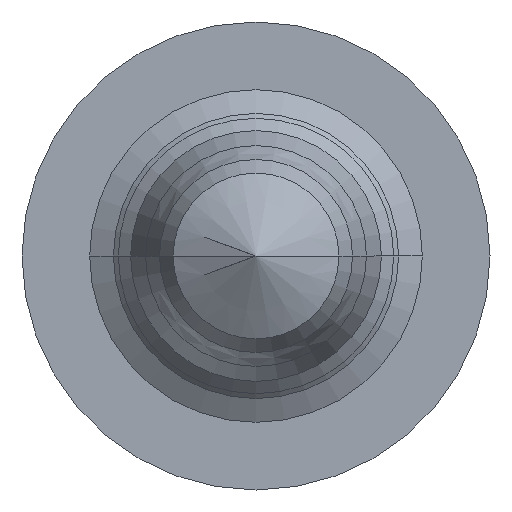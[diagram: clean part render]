
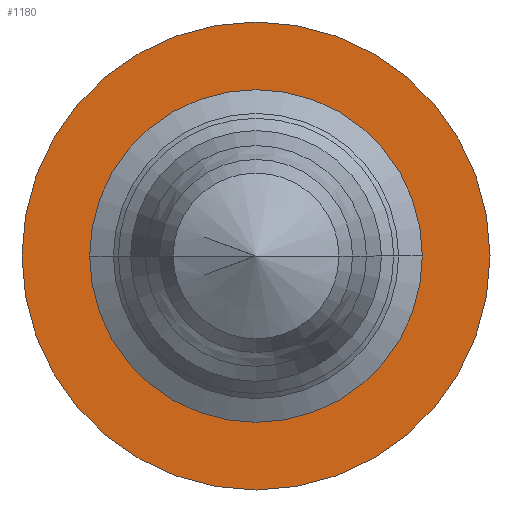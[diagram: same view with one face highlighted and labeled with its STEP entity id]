
A CAD part, front view. The second image highlights one B-rep face of the part: STEP entity #1180.
In plain terms, the highlighted planar face has unit normal (0, -1, 0).
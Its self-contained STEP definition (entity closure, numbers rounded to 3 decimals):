
#268=CARTESIAN_POINT('',(-0.377,-0.031,0.0));
#269=VERTEX_POINT('',#268);
#277=CARTESIAN_POINT('',(0.377,-0.031,0.));
#278=VERTEX_POINT('',#277);
#285=CARTESIAN_POINT('',(0.,-0.031,0.0));
#286=DIRECTION('',(0.0,-1.0,0.0));
#287=DIRECTION('',(-1.0,0.0,0.0));
#288=AXIS2_PLACEMENT_3D('',#285,#286,#287);
#289=CIRCLE('',#288,0.377);
#290=EDGE_CURVE('',#278,#269,#289,.T.);
#300=CARTESIAN_POINT('',(-0.531,-0.031,0.0));
#301=VERTEX_POINT('',#300);
#310=CARTESIAN_POINT('',(0.531,-0.031,0.));
#311=VERTEX_POINT('',#310);
#312=CARTESIAN_POINT('',(0.,-0.031,0.0));
#313=DIRECTION('',(0.0,-1.0,0.0));
#314=DIRECTION('',(-1.0,0.0,0.0));
#315=AXIS2_PLACEMENT_3D('',#312,#313,#314);
#316=CIRCLE('',#315,0.531);
#317=EDGE_CURVE('',#311,#301,#316,.T.);
#1151=CARTESIAN_POINT('',(0.,-0.031,0.0));
#1152=DIRECTION('',(0.0,-1.0,0.0));
#1153=DIRECTION('',(-1.0,0.0,0.0));
#1154=AXIS2_PLACEMENT_3D('',#1151,#1152,#1153);
#1155=CIRCLE('',#1154,0.531);
#1156=EDGE_CURVE('',#301,#311,#1155,.T.);
#1161=CARTESIAN_POINT('',(-0.454,-0.031,0.0));
#1162=DIRECTION('',(0.0,-1.0,0.0));
#1163=DIRECTION('',(0.0,0.0,-1.0));
#1164=AXIS2_PLACEMENT_3D('',#1161,#1162,#1163);
#1165=PLANE('',#1164);
#1166=ORIENTED_EDGE('',*,*,#1156,.T.);
#1167=ORIENTED_EDGE('',*,*,#317,.T.);
#1168=EDGE_LOOP('',(#1166,#1167));
#1169=FACE_OUTER_BOUND('',#1168,.T.);
#1170=CARTESIAN_POINT('',(0.,-0.031,0.0));
#1171=DIRECTION('',(0.0,-1.0,0.0));
#1172=DIRECTION('',(-1.0,0.0,0.0));
#1173=AXIS2_PLACEMENT_3D('',#1170,#1171,#1172);
#1174=CIRCLE('',#1173,0.377);
#1175=EDGE_CURVE('',#269,#278,#1174,.T.);
#1176=ORIENTED_EDGE('',*,*,#1175,.F.);
#1177=ORIENTED_EDGE('',*,*,#290,.F.);
#1178=EDGE_LOOP('',(#1176,#1177));
#1179=FACE_BOUND('',#1178,.T.);
#1180=ADVANCED_FACE('',(#1169,#1179),#1165,.T.);
